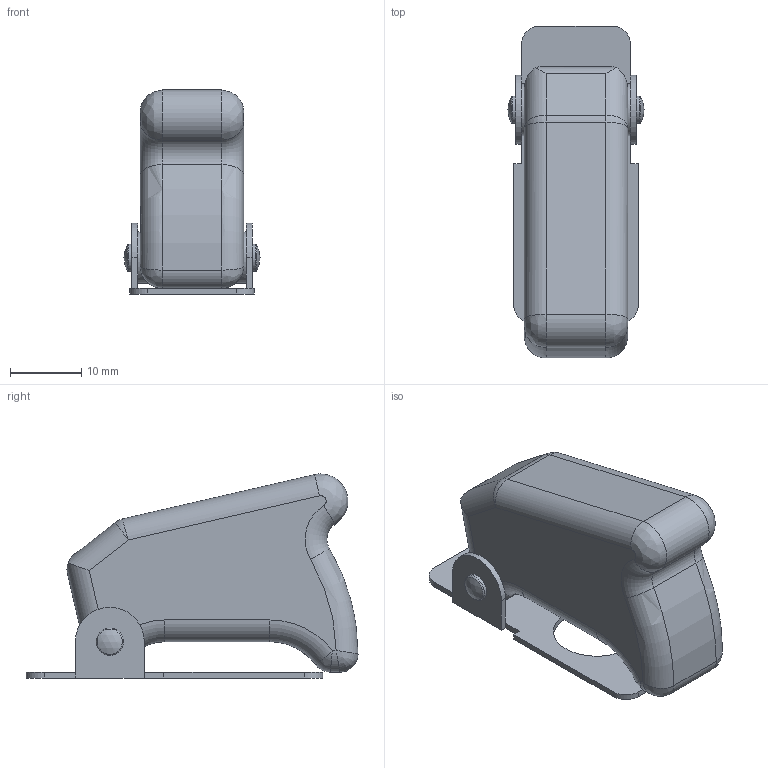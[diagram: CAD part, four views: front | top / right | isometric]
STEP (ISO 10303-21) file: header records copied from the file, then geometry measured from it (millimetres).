
FILE_DESCRIPTION(/* description */ (''),/* implementation_level */ '2;1');
FILE_NAME(/* name */ 'SC-R.stp',/* time_stamp */ '2024-01-24T09:16:50-08:00',/* author */ ('RaniahC'),/* organization */ (''),/* preprocessor_version */ 'ST-DEVELOPER v19.2',/* originating_system */ 'Autodesk Inventor 2024',/* authorisation */ '');
FILE_SCHEMA (('AUTOMOTIVE_DESIGN { 1 0 10303 214 3 1 1 }'));
Length unit declared in the file: inch
Products named in the file (1): SC-R
Bounding box: 19.05 x 46.48 x 28.57 mm (x, y, z)
Volume: 9773.7 mm3; surface area: 5546.2 mm2
Topology: 3 solids, 3 shells, 107 faces, 266 edges, 161 vertices
Faces by surface type: plane 44, cylinder 38, bspline 12, torus 11, sphere 2
Full cylindrical faces by diameter (mm): 1.587 x5, 3.81 x2, 6.985 x1, 7.239 x2
Entity records: 3860 total; most frequent: CARTESIAN_POINT 1326, ORIENTED_EDGE 520, DIRECTION 514, EDGE_CURVE 260, AXIS2_PLACEMENT_3D 190, VERTEX_POINT 161, LINE 134, VECTOR 134
